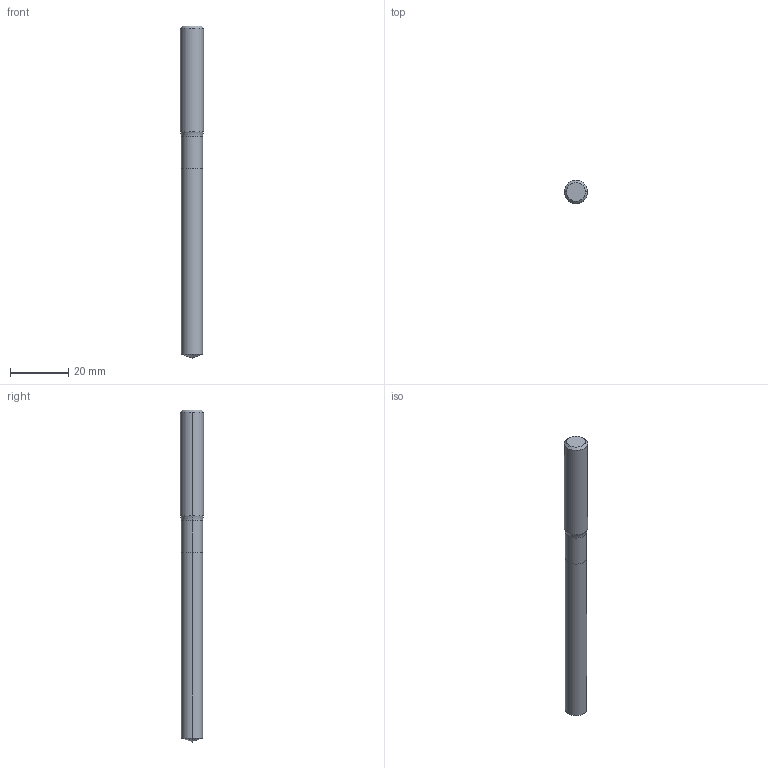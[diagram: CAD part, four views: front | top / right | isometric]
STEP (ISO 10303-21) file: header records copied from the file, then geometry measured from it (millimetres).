
FILE_DESCRIPTION (( 'STEP AP214' ), '1' );
FILE_NAME ('754.073.00_3D-model.step', '2023-08-21T12:05:20', ( '' ), ( '' ), 'SwSTEP 2.0', 'SolidWorks 2020', '' );
FILE_SCHEMA (( 'AUTOMOTIVE_DESIGN' ));
Length unit declared in the file: millimetre
Products named in the file (3): NOCUT-3D^Baugr107; CUT-3D^Baugr107; 754.073.00_3D-model
Assembly tree (2 placements, depth 2):
  754.073.00_3D-model
    CUT-3D^Baugr107
    NOCUT-3D^Baugr107
Bounding box: 8 x 8 x 114 mm (x, y, z)
Volume: 5037.1 mm3; surface area: 2832.2 mm2
Topology: 2 solids, 2 shells, 15 faces, 28 edges, 15 vertices
Faces by surface type: cylinder 6, cone 4, plane 3, torus 2
Entity records: 482 total; most frequent: DIRECTION 88, CARTESIAN_POINT 64, ORIENTED_EDGE 52, AXIS2_PLACEMENT_3D 39, EDGE_CURVE 26, CIRCLE 16, EDGE_LOOP 15, ADVANCED_FACE 15
